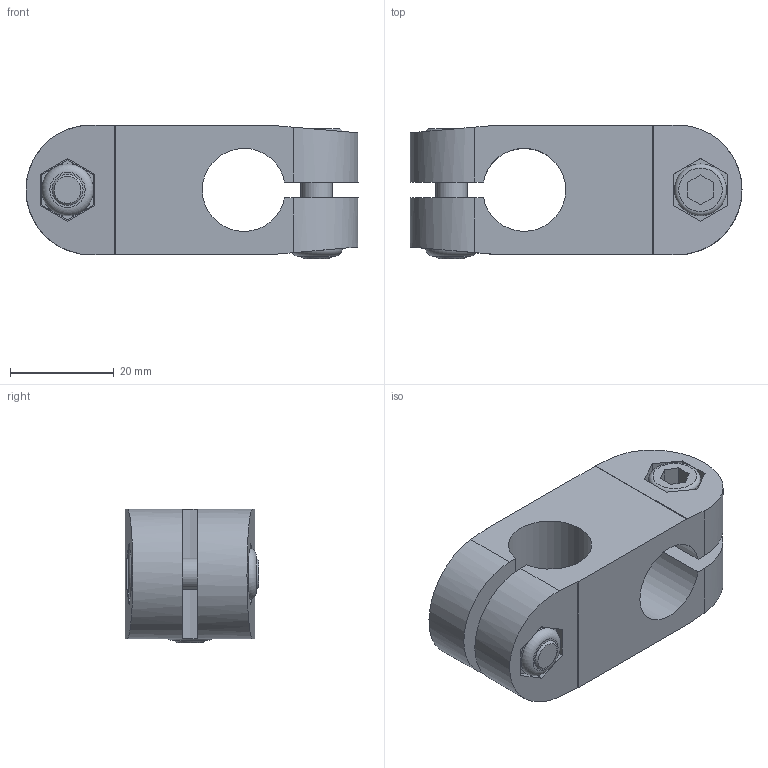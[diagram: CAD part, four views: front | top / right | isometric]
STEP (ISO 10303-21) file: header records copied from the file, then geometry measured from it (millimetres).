
FILE_DESCRIPTION( ( 'STEP AP203' ), '1' );
FILE_NAME( 'C:/Temp/Ganter_Step_05_03_2020/data/3_7/131/gn_131_1_al/Two-way connector clamp GN 131-B16-B16-2-SW.stp', '2020-03-12T14:16:07', ( 'License CC BY-ND 4.0' ), ( 'CADENAS' ), ' ', 'PARTsolutions', ' ' );
FILE_SCHEMA( ( 'CONFIG_CONTROL_DESIGN' ) );
Length unit declared in the file: millimetre
Products named in the file (1): _Two-way connector clamp GN 131-B16-B16-2-SW
Bounding box: 64 x 25.8 x 25.8 mm (x, y, z)
Volume: 23668 mm3; surface area: 11577.3 mm2
Topology: 1 solids, 1 shells, 116 faces, 278 edges, 180 vertices
Faces by surface type: plane 88, cylinder 22, torus 4, cone 2
Full cylindrical faces by diameter (mm): 6 x4, 6.5 x4, 10 x4
Entity records: 3260 total; most frequent: DIRECTION 550, CARTESIAN_POINT 549, ORIENTED_EDGE 512, EDGE_CURVE 256, LINE 196, VECTOR 196, AXIS2_PLACEMENT_3D 177, VERTEX_POINT 176
